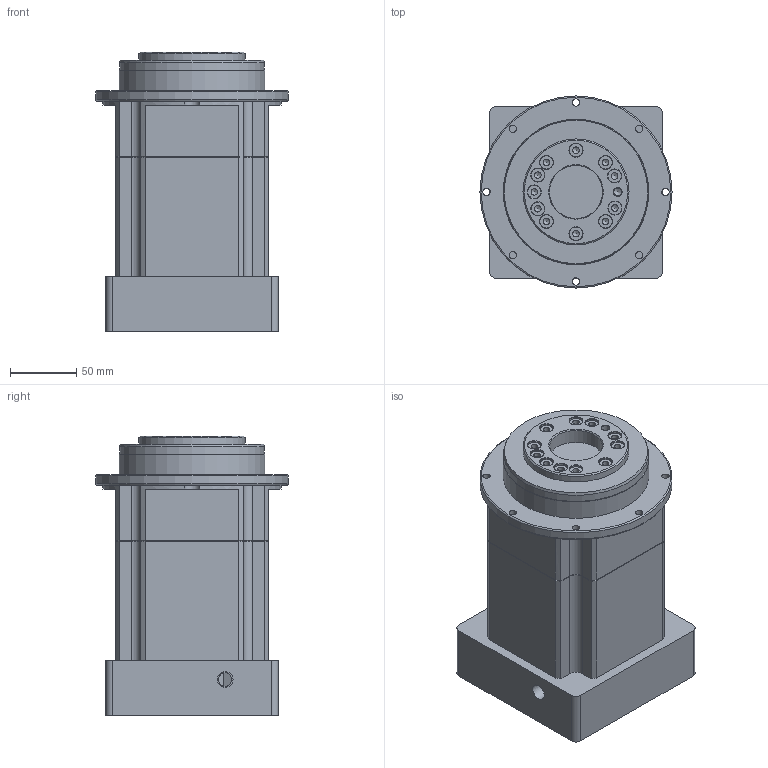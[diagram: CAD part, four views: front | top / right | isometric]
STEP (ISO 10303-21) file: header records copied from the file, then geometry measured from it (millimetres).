
FILE_DESCRIPTION((''),'2;1');
FILE_NAME('D:\유성\유성\도면\3D\2. 홈페이지용 3D 도면 (ipt)\외부도\SPIFH115\SPIFH115 SERIES (2 STAGE-A TYPE)_Shrinkwrap_1.stp','2014-05-08T15:02:20',('nagyu'),(''),'Autodesk Inventor 2013','Autodesk Inventor 2013','');
FILE_SCHEMA(('AUTOMOTIVE_DESIGN { 1 0 10303 214 1 1 1 1 }'));
Length unit declared in the file: millimetre
Products named in the file (1): SPIFH115 SERIES (2 STAGE-A TYPE)_Shrinkwrap_1
Bounding box: 145 x 145 x 211.2 mm (x, y, z)
Volume: 2416696.6 mm3; surface area: 166494.3 mm2
Topology: 1 solids, 1 shells, 211 faces, 532 edges, 340 vertices
Faces by surface type: cylinder 78, plane 77, cone 54, torus 2
Full cylindrical faces by diameter (mm): 4.917 x11, 5.5 x8, 6 x1, 6.647 x4, 10 x11, 10.2 x1, 12 x1, 32 x1, 40 x1, 45 x1, 80 x2, 109.4 x1, 110 x2, 145 x1
Entity records: 5660 total; most frequent: DIRECTION 1020, CARTESIAN_POINT 1015, ORIENTED_EDGE 812, AXIS2_PLACEMENT_3D 427, EDGE_CURVE 406, EDGE_LOOP 334, VERTEX_POINT 300, CIRCLE 211
